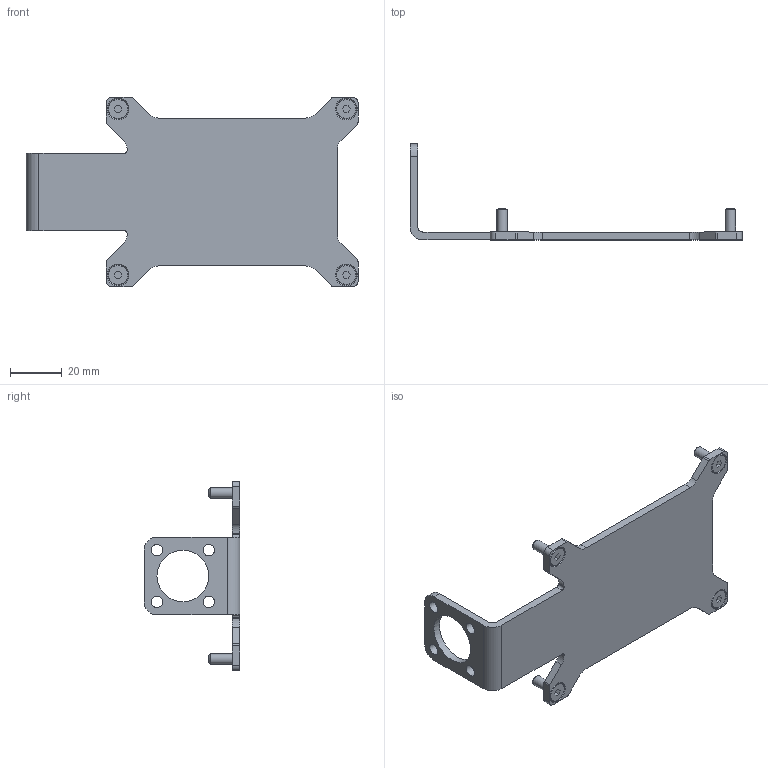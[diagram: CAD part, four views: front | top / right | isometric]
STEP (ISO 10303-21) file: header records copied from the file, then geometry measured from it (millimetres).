
FILE_DESCRIPTION(/* description */ ('STEP AP203'),/* implementation_level */ '2;1');
FILE_NAME(/* name */ 'P_MZ_Z_1266',/* time_stamp */ '2023-02-06T11:41:04+01:00',/* author */ ('License CC BY-ND 4.0'),/* organization */ ('CADENAS'),/* preprocessor_version */ 'ST-DEVELOPER v18.102',/* originating_system */ 'PARTsolutions',/* authorisation */ ' ');
FILE_SCHEMA (('CONFIG_CONTROL_DESIGN'));
Length unit declared in the file: millimetre
Products named in the file (3): P_MZ_Z_1266; P_MZ_Z_1266_P2; P_MZ_Z_1266_P1
Assembly tree (5 placements, depth 2):
  P_MZ_Z_1266
    P_MZ_Z_1266_P2  x4
    P_MZ_Z_1266_P1
Bounding box: 128 x 37 x 73 mm (x, y, z)
Volume: 21422.6 mm3; surface area: 16882.4 mm2
Topology: 5 solids, 5 shells, 119 faces, 304 edges, 199 vertices
Faces by surface type: plane 64, cylinder 39, cone 12, torus 4
Full cylindrical faces by diameter (mm): 4 x4, 4.5 x8, 20 x1
Entity records: 2595 total; most frequent: DIRECTION 452, CARTESIAN_POINT 430, ORIENTED_EDGE 402, EDGE_CURVE 201, AXIS2_PLACEMENT_3D 165, VERTEX_POINT 143, LINE 122, VECTOR 122
